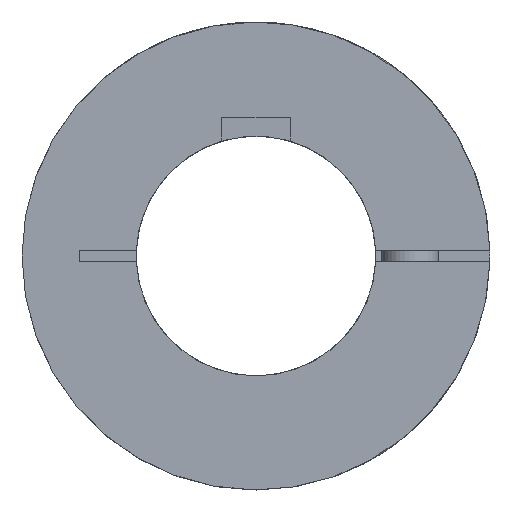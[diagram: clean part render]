
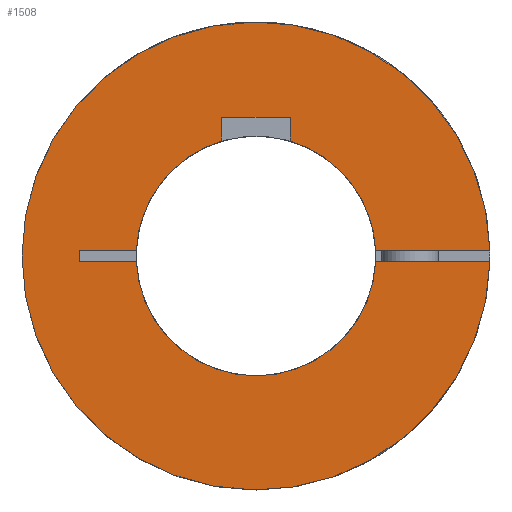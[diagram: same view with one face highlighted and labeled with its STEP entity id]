
A CAD part, left-side view. The second image highlights one B-rep face of the part: STEP entity #1508.
In plain terms, the highlighted planar face has unit normal (-1, 0, 0).
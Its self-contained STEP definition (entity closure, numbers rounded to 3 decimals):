
#40=PLANE('',#1713);
#141=LINE('',#2662,#252);
#144=LINE('',#2668,#255);
#145=LINE('',#2670,#256);
#156=LINE('',#2689,#267);
#159=LINE('',#2695,#270);
#171=LINE('',#2717,#282);
#172=LINE('',#2720,#283);
#195=LINE('',#2767,#306);
#252=VECTOR('',#2041,1.);
#255=VECTOR('',#2046,1.);
#256=VECTOR('',#2049,1.);
#267=VECTOR('',#2068,31.541);
#270=VECTOR('',#2075,31.541);
#282=VECTOR('',#2095,21.553);
#283=VECTOR('',#2098,21.553);
#306=VECTOR('',#2145,2.);
#402=FACE_OUTER_BOUND('',#500,.T.);
#500=EDGE_LOOP('',(#1298,#1299,#1300,#1301,#1302,#1303,#1304,#1305,#1306,
#1307,#1308,#1309));
#625=CIRCLE('',#1662,41.);
#639=CIRCLE('',#1682,21.);
#641=CIRCLE('',#1684,21.);
#642=CIRCLE('',#1686,21.);
#720=VERTEX_POINT('',#2542);
#721=VERTEX_POINT('',#2544);
#743=VERTEX_POINT('',#2635);
#744=VERTEX_POINT('',#2637);
#747=VERTEX_POINT('',#2643);
#748=VERTEX_POINT('',#2645);
#749=VERTEX_POINT('',#2649);
#750=VERTEX_POINT('',#2650);
#754=VERTEX_POINT('',#2660);
#756=VERTEX_POINT('',#2666);
#767=VERTEX_POINT('',#2715);
#768=VERTEX_POINT('',#2719);
#894=EDGE_CURVE('',#721,#720,#625,.T.);
#920=EDGE_CURVE('',#744,#743,#639,.T.);
#924=EDGE_CURVE('',#748,#747,#641,.T.);
#926=EDGE_CURVE('',#749,#750,#642,.T.);
#932=EDGE_CURVE('',#747,#754,#141,.T.);
#935=EDGE_CURVE('',#754,#756,#144,.T.);
#936=EDGE_CURVE('',#756,#744,#145,.T.);
#947=EDGE_CURVE('',#743,#721,#156,.T.);
#950=EDGE_CURVE('',#720,#749,#159,.T.);
#962=EDGE_CURVE('',#767,#750,#171,.T.);
#963=EDGE_CURVE('',#768,#748,#172,.T.);
#986=EDGE_CURVE('',#768,#767,#195,.T.);
#1298=ORIENTED_EDGE('',*,*,#920,.T.);
#1299=ORIENTED_EDGE('',*,*,#947,.T.);
#1300=ORIENTED_EDGE('',*,*,#894,.T.);
#1301=ORIENTED_EDGE('',*,*,#950,.T.);
#1302=ORIENTED_EDGE('',*,*,#926,.T.);
#1303=ORIENTED_EDGE('',*,*,#962,.F.);
#1304=ORIENTED_EDGE('',*,*,#986,.F.);
#1305=ORIENTED_EDGE('',*,*,#963,.T.);
#1306=ORIENTED_EDGE('',*,*,#924,.T.);
#1307=ORIENTED_EDGE('',*,*,#932,.T.);
#1308=ORIENTED_EDGE('',*,*,#935,.T.);
#1309=ORIENTED_EDGE('',*,*,#936,.T.);
#1508=ADVANCED_FACE('',(#402),#40,.T.);
#1662=AXIS2_PLACEMENT_3D('',#2545,#1970,#1971);
#1682=AXIS2_PLACEMENT_3D('',#2638,#2020,#2021);
#1684=AXIS2_PLACEMENT_3D('',#2646,#2026,#2027);
#1686=AXIS2_PLACEMENT_3D('',#2651,#2031,#2032);
#1713=AXIS2_PLACEMENT_3D('',#2766,#2143,#2144);
#1970=DIRECTION('center_axis',(-1.,0.,0.));
#1971=DIRECTION('ref_axis',(0.,1.,0.));
#2020=DIRECTION('center_axis',(1.,0.,0.));
#2021=DIRECTION('ref_axis',(0.,0.,1.));
#2026=DIRECTION('center_axis',(1.,0.,0.));
#2027=DIRECTION('ref_axis',(0.,0.,1.));
#2031=DIRECTION('center_axis',(1.,0.,0.));
#2032=DIRECTION('ref_axis',(0.,0.,1.));
#2041=DIRECTION('',(0.,0.,1.));
#2046=DIRECTION('',(0.,-1.,0.));
#2049=DIRECTION('',(0.,0.,-1.));
#2068=DIRECTION('',(0.,-1.,0.));
#2075=DIRECTION('',(0.,1.,0.));
#2095=DIRECTION('',(0.,-1.,0.));
#2098=DIRECTION('',(0.,-1.,0.));
#2143=DIRECTION('center_axis',(-1.,0.,0.));
#2144=DIRECTION('ref_axis',(0.,-1.,0.));
#2145=DIRECTION('',(0.,0.,-1.));
#2542=CARTESIAN_POINT('',(0.,-40.988,-1.));
#2544=CARTESIAN_POINT('',(0.,-40.988,1.));
#2545=CARTESIAN_POINT('Origin',(0.,0.,0.));
#2635=CARTESIAN_POINT('',(0.,-20.976,1.));
#2637=CARTESIAN_POINT('',(0.,-6.,20.125));
#2638=CARTESIAN_POINT('Origin',(0.,0.,0.));
#2643=CARTESIAN_POINT('',(0.,6.,20.125));
#2645=CARTESIAN_POINT('',(0.,20.976,1.));
#2646=CARTESIAN_POINT('Origin',(0.,0.,0.));
#2649=CARTESIAN_POINT('',(0.,-20.976,-1.));
#2650=CARTESIAN_POINT('',(0.,20.976,-1.));
#2651=CARTESIAN_POINT('Origin',(0.,0.,0.));
#2660=CARTESIAN_POINT('',(0.,6.,24.3));
#2662=CARTESIAN_POINT('',(0.,6.,1.325));
#2666=CARTESIAN_POINT('',(0.,-6.,24.3));
#2668=CARTESIAN_POINT('',(0.,0.,24.3));
#2670=CARTESIAN_POINT('',(0.,-6.,1.325));
#2689=CARTESIAN_POINT('',(0.,-9.447,1.));
#2695=CARTESIAN_POINT('',(0.,-40.988,-1.));
#2715=CARTESIAN_POINT('',(0.,31.,-1.));
#2717=CARTESIAN_POINT('',(0.,31.,-1.));
#2719=CARTESIAN_POINT('',(0.,31.,1.));
#2720=CARTESIAN_POINT('',(0.,31.,1.));
#2766=CARTESIAN_POINT('Origin',(0.,0.,-9.5));
#2767=CARTESIAN_POINT('',(0.,31.,1.));
